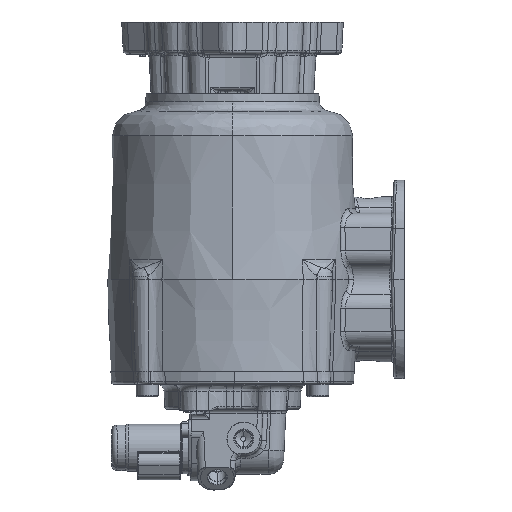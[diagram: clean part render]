
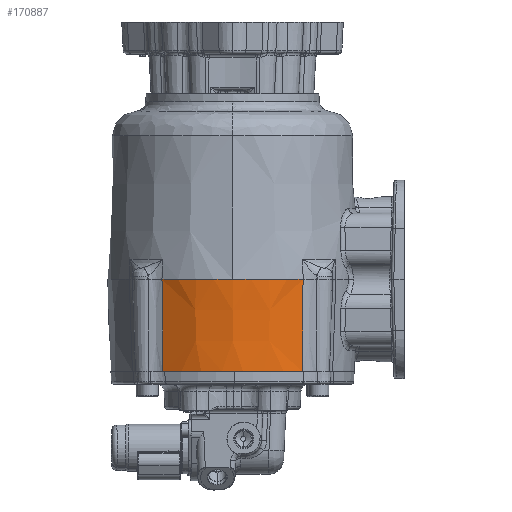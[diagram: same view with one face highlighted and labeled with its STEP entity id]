
A CAD part, left-side view. The second image highlights one B-rep face of the part: STEP entity #170887.
In plain terms, the highlighted conical face has half-angle 2 degrees and reference radius 78.232 mm.
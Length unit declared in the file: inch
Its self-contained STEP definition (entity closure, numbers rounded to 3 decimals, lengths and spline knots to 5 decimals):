
#1445 = CARTESIAN_POINT ( 'NONE',  ( -3.79389, 5.06598, 0. ) ) ;
#3734 = CARTESIAN_POINT ( 'NONE',  ( -4.33, 3.3296, 0. ) ) ;
#9626 = VERTEX_POINT ( 'NONE', #108560 ) ;
#15113 = EDGE_LOOP ( 'NONE', ( #129802, #49507, #33242, #28087, #72433 ) ) ;
#16337 = CARTESIAN_POINT ( 'NONE',  ( -3.76676, 5.05766, -0.77621 ) ) ;
#16964 = CIRCLE ( 'NONE', #135536, 3.08 ) ;
#18588 = DIRECTION ( 'NONE',  ( 0., 0., 1. ) ) ;
#27645 = AXIS2_PLACEMENT_3D ( 'NONE', #134630, #106745, #80756 ) ;
#28011 = CARTESIAN_POINT ( 'NONE',  ( -3.76676, 1.60154, -0.77621 ) ) ;
#28087 = ORIENTED_EDGE ( 'NONE', *, *, #104876, .T. ) ;
#29764 = FACE_OUTER_BOUND ( 'NONE', #15113, .T. ) ;
#30481 = VERTEX_POINT ( 'NONE', #3734 ) ;
#33242 = ORIENTED_EDGE ( 'NONE', *, *, #52512, .F. ) ;
#35676 = DIRECTION ( 'NONE',  ( 1., 0., 0. ) ) ;
#39133 = AXIS2_PLACEMENT_3D ( 'NONE', #109768, #167283, #83763 ) ;
#46426 = CARTESIAN_POINT ( 'NONE',  ( -1.25, 3.3296, 0. ) ) ;
#49507 = ORIENTED_EDGE ( 'NONE', *, *, #95923, .T. ) ;
#52512 = EDGE_CURVE ( 'NONE', #164455, #9626, #133997, .T. ) ;
#60394 = DIRECTION ( 'NONE',  ( 1., 0., 0. ) ) ;
#63576 = CARTESIAN_POINT ( 'NONE',  ( -1.25, 3.3296, 0. ) ) ;
#72433 = ORIENTED_EDGE ( 'NONE', *, *, #130705, .F. ) ;
#72966 = CARTESIAN_POINT ( 'NONE',  ( -3.74025, 5.04967, -1.53104 ) ) ;
#73072 = VERTEX_POINT ( 'NONE', #133023 ) ;
#80756 = DIRECTION ( 'NONE',  ( 1., 0., 0. ) ) ;
#83763 = DIRECTION ( 'NONE',  ( 1., 0., 0. ) ) ;
#85554 = CARTESIAN_POINT ( 'NONE',  ( -3.71437, 1.61717, -2.2645 ) ) ;
#88370 = CONICAL_SURFACE ( 'NONE', #103058, 3.08, 0.035 ) ;
#95923 = EDGE_CURVE ( 'NONE', #73072, #9626, #107691, .T. ) ;
#100798 = CARTESIAN_POINT ( 'NONE',  ( -3.71437, 5.04203, -2.2645 ) ) ;
#103058 = AXIS2_PLACEMENT_3D ( 'NONE', #46426, #18588, #60394 ) ;
#104876 = EDGE_CURVE ( 'NONE', #164455, #124625, #180867, .T. ) ;
#106745 = DIRECTION ( 'NONE',  ( 0., 0., 1. ) ) ;
#107691 = B_SPLINE_CURVE_WITH_KNOTS ( 'NONE', 3,
 ( #1445, #16337, #72966, #100798 ),
 .UNSPECIFIED., .F., .F.,
 ( 4, 4 ),
 ( 0., 1. ),
 .UNSPECIFIED. ) ;
#108560 = CARTESIAN_POINT ( 'NONE',  ( -3.71437, 5.04203, -2.2645 ) ) ;
#109768 = CARTESIAN_POINT ( 'NONE',  ( -1.25, 3.3296, -2.2645 ) ) ;
#111574 = CARTESIAN_POINT ( 'NONE',  ( -3.79389, 1.59322, 0. ) ) ;
#120162 = DIRECTION ( 'NONE',  ( 0., 0., 1. ) ) ;
#124625 = VERTEX_POINT ( 'NONE', #148635 ) ;
#129802 = ORIENTED_EDGE ( 'NONE', *, *, #165214, .F. ) ;
#130705 = EDGE_CURVE ( 'NONE', #30481, #124625, #131422, .T. ) ;
#131422 = CIRCLE ( 'NONE', #27645, 3.08 ) ;
#133023 = CARTESIAN_POINT ( 'NONE',  ( -3.79389, 5.06598, 0. ) ) ;
#133997 = CIRCLE ( 'NONE', #39133, 3.00092 ) ;
#134630 = CARTESIAN_POINT ( 'NONE',  ( -1.25, 3.3296, 0. ) ) ;
#135536 = AXIS2_PLACEMENT_3D ( 'NONE', #63576, #120162, #35676 ) ;
#143081 = CARTESIAN_POINT ( 'NONE',  ( -3.74025, 1.60953, -1.53104 ) ) ;
#148635 = CARTESIAN_POINT ( 'NONE',  ( -3.79389, 1.59322, 0. ) ) ;
#159399 = CARTESIAN_POINT ( 'NONE',  ( -3.71437, 1.61717, -2.2645 ) ) ;
#164455 = VERTEX_POINT ( 'NONE', #159399 ) ;
#165214 = EDGE_CURVE ( 'NONE', #73072, #30481, #16964, .T. ) ;
#167283 = DIRECTION ( 'NONE',  ( 0., 0., -1. ) ) ;
#170887 = ADVANCED_FACE ( 'NONE', ( #29764 ), #88370, .T. ) ;
#180867 = B_SPLINE_CURVE_WITH_KNOTS ( 'NONE', 3,
 ( #85554, #143081, #28011, #111574 ),
 .UNSPECIFIED., .F., .F.,
 ( 4, 4 ),
 ( 0., 1. ),
 .UNSPECIFIED. ) ;
